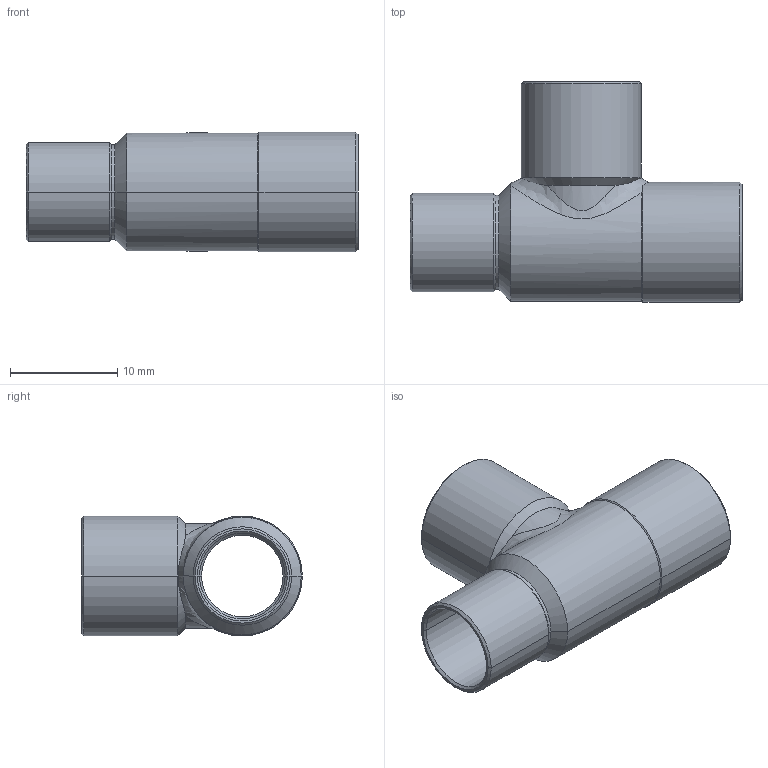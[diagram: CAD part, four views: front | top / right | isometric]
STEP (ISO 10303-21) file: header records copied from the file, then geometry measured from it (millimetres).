
FILE_DESCRIPTION((''),'2;1');
FILE_NAME('P:\Bouwmaten\z-maattekeningen 3D\5000\5130\513010108.stp','2005-10-26T11:54:05',('Kris'),(''),'Autodesk Inventor 8','Autodesk Inventor 8','');
FILE_SCHEMA(('AUTOMOTIVE_DESIGN { 1 0 10303 214 1 1 1 1 }'));
Length unit declared in the file: millimetre
Products named in the file (1): 513010108
Bounding box: 31 x 20.6 x 11.2 mm (x, y, z)
Volume: 750.8 mm3; surface area: 2558.6 mm2
Topology: 1 solids, 1 shells, 59 faces, 144 edges, 86 vertices
Faces by surface type: cone 30, cylinder 24, plane 3, bspline 2
Entity records: 2330 total; most frequent: CARTESIAN_POINT 936, DIRECTION 292, ORIENTED_EDGE 288, EDGE_CURVE 144, AXIS2_PLACEMENT_3D 123, VERTEX_POINT 86, CIRCLE 65, EDGE_LOOP 62
